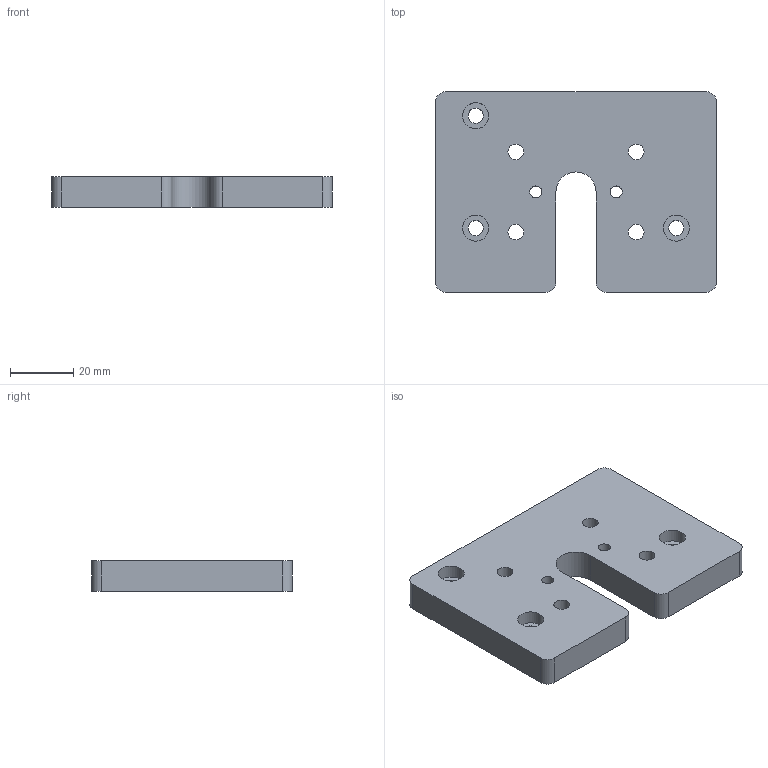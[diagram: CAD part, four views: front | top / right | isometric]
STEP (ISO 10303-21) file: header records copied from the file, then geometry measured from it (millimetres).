
FILE_DESCRIPTION( ( 'Unknown' ), '1' );
FILE_NAME( 'S:/A & P Tool/Start Button Swivel Mount/STP - IGES master files/AFSB-592-M-QX-830-870.stp', 'Unknown', ( 'Unknown' ), ( 'Unknown' ), 'PSStep 16.0.42', 'Unknown', ' ' );
FILE_SCHEMA( ( 'AUTOMOTIVE_DESIGN { 1 0 10303 214 1 1 1 1 }' ) );
Length unit declared in the file: millimetre
Products named in the file (1): 1
Bounding box: 88.9 x 63.5 x 9.53 mm (x, y, z)
Volume: 47279.3 mm3; surface area: 14912.5 mm2
Topology: 1 solids, 1 shells, 31 faces, 83 edges, 57 vertices
Faces by surface type: cylinder 19, plane 12
Full cylindrical faces by diameter (mm): 3.785 x2, 4.8 x3, 4.976 x4, 8.25 x3
Entity records: 1190 total; most frequent: DIRECTION 168, CARTESIAN_POINT 150, ORIENTED_EDGE 132, AXIS2_PLACEMENT_3D 70, EDGE_CURVE 66, EDGE_LOOP 64, VERTEX_POINT 52, FACE_OUTER_BOUND 43
